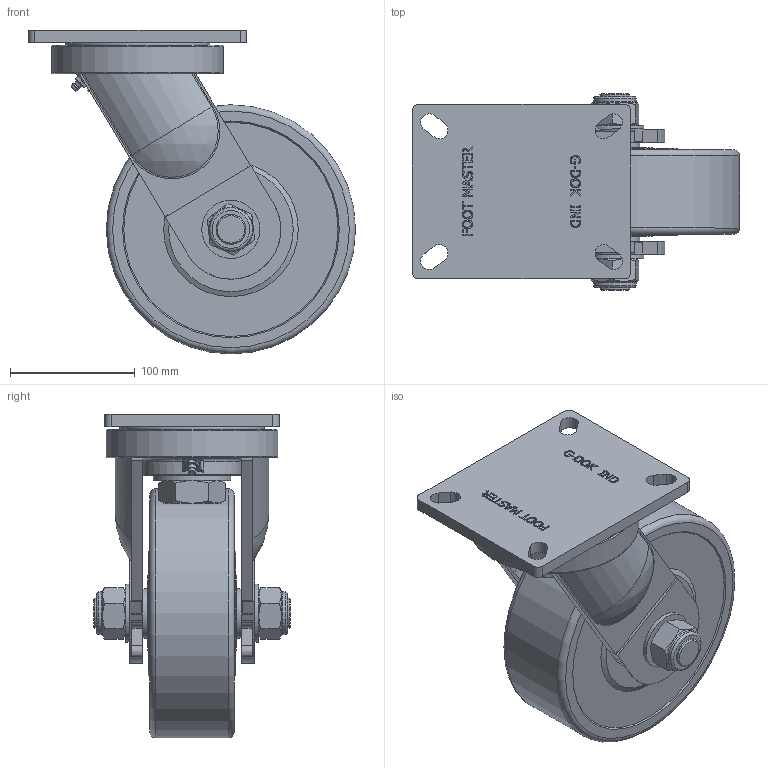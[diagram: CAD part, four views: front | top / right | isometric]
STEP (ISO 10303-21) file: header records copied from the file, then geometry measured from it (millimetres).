
FILE_DESCRIPTION((''),'2;1');
FILE_NAME('C:\Documents and Settings\Administrator\바탕 화면\3D STEP\GXT-SERIES\GXT-200\GXT-200-SF-MCD\GXT-200-SF(MCD).stp','2010-12-27T14:42:18',('Administrator'),(''),'Autodesk Inventor 2009','Autodesk Inventor 2009','');
FILE_SCHEMA(('AUTOMOTIVE_DESIGN { 1 0 10303 214 1 1 1 1 }'));
Length unit declared in the file: millimetre
Products named in the file (1): GXT-200-SF(MCD)
Bounding box: 262.5 x 158 x 260 mm (x, y, z)
Volume: 3045653.4 mm3; surface area: 318640.8 mm2
Topology: 2 solids, 4 shells, 633 faces, 1660 edges, 1091 vertices
Faces by surface type: plane 343, bspline 126, cylinder 114, cone 33, torus 13, sphere 4
Full cylindrical faces by diameter (mm): 5 x1, 6 x1, 22 x2, 24 x6, 24.3 x2, 24.5 x2, 26 x2, 30 x1, 34.4 x2, 35 x2, 40 x2, 40.667 x4, 46.7 x2, 48.5 x1, 51.333 x4, 55 x2, 56 x1, 57 x1, 62 x1, 62.5 x1, 78 x2, 80 x1, 138 x1, 200 x1
Entity records: 21503 total; most frequent: CARTESIAN_POINT 7123, ORIENTED_EDGE 3064, DIRECTION 2623, EDGE_CURVE 1532, VERTEX_POINT 1057, AXIS2_PLACEMENT_3D 876, VECTOR 871, LINE 871
